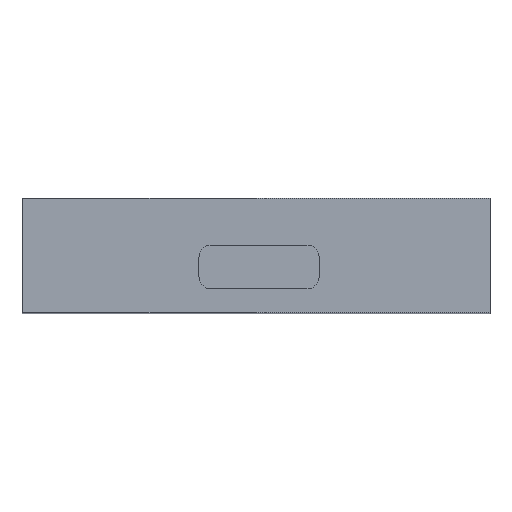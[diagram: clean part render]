
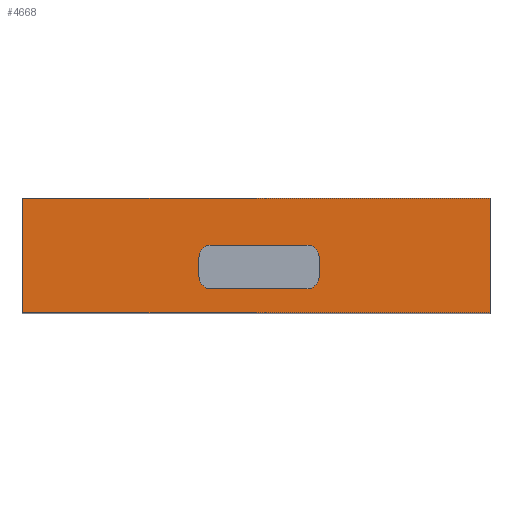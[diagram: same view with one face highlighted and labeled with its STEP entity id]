
A CAD part, top view. The second image highlights one B-rep face of the part: STEP entity #4668.
In plain terms, the highlighted planar face has unit normal (0, 0, 1).
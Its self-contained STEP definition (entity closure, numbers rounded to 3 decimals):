
#31=CIRCLE('',#4989,1.);
#32=CIRCLE('',#4990,1.);
#33=CIRCLE('',#4991,1.);
#34=CIRCLE('',#4992,1.);
#52=FACE_BOUND('',#408,.T.);
#90=FACE_OUTER_BOUND('',#407,.T.);
#407=EDGE_LOOP('',(#3320,#3321,#3322,#3323));
#408=EDGE_LOOP('',(#3324,#3325,#3326,#3327,#3328,#3329,#3330,#3331));
#676=LINE('',#6547,#1330);
#683=LINE('',#6560,#1337);
#777=LINE('',#6750,#1431);
#865=LINE('',#6926,#1519);
#883=LINE('',#6967,#1537);
#884=LINE('',#6971,#1538);
#885=LINE('',#6975,#1539);
#886=LINE('',#6979,#1540);
#1330=VECTOR('',#5268,10.);
#1337=VECTOR('',#5277,10.);
#1431=VECTOR('',#5433,10.);
#1519=VECTOR('',#5523,10.);
#1537=VECTOR('',#5553,10.);
#1538=VECTOR('',#5556,10.);
#1539=VECTOR('',#5559,10.);
#1540=VECTOR('',#5562,10.);
#1984=VERTEX_POINT('',#6544);
#1985=VERTEX_POINT('',#6546);
#1990=VERTEX_POINT('',#6558);
#2054=VERTEX_POINT('',#6747);
#2055=VERTEX_POINT('',#6749);
#2142=VERTEX_POINT('',#6925);
#2160=VERTEX_POINT('',#6968);
#2161=VERTEX_POINT('',#6970);
#2162=VERTEX_POINT('',#6972);
#2163=VERTEX_POINT('',#6974);
#2164=VERTEX_POINT('',#6976);
#2165=VERTEX_POINT('',#6978);
#2352=EDGE_CURVE('',#1984,#1985,#676,.T.);
#2359=EDGE_CURVE('',#1984,#1990,#683,.T.);
#2453=EDGE_CURVE('',#2055,#2054,#777,.T.);
#2541=EDGE_CURVE('',#1985,#2142,#865,.T.);
#2563=EDGE_CURVE('',#1990,#2142,#883,.T.);
#2564=EDGE_CURVE('',#2054,#2160,#31,.T.);
#2565=EDGE_CURVE('',#2160,#2161,#884,.T.);
#2566=EDGE_CURVE('',#2161,#2162,#32,.T.);
#2567=EDGE_CURVE('',#2162,#2163,#885,.T.);
#2568=EDGE_CURVE('',#2163,#2164,#33,.T.);
#2569=EDGE_CURVE('',#2164,#2165,#886,.T.);
#2570=EDGE_CURVE('',#2165,#2055,#34,.T.);
#3320=ORIENTED_EDGE('',*,*,#2541,.F.);
#3321=ORIENTED_EDGE('',*,*,#2352,.F.);
#3322=ORIENTED_EDGE('',*,*,#2359,.T.);
#3323=ORIENTED_EDGE('',*,*,#2563,.T.);
#3324=ORIENTED_EDGE('',*,*,#2453,.T.);
#3325=ORIENTED_EDGE('',*,*,#2564,.T.);
#3326=ORIENTED_EDGE('',*,*,#2565,.T.);
#3327=ORIENTED_EDGE('',*,*,#2566,.T.);
#3328=ORIENTED_EDGE('',*,*,#2567,.T.);
#3329=ORIENTED_EDGE('',*,*,#2568,.T.);
#3330=ORIENTED_EDGE('',*,*,#2569,.T.);
#3331=ORIENTED_EDGE('',*,*,#2570,.T.);
#4372=PLANE('',#4988);
#4668=ADVANCED_FACE('',(#90,#52),#4372,.T.);
#4988=AXIS2_PLACEMENT_3D('',#6966,#5551,#5552);
#4989=AXIS2_PLACEMENT_3D('',#6969,#5554,#5555);
#4990=AXIS2_PLACEMENT_3D('',#6973,#5557,#5558);
#4991=AXIS2_PLACEMENT_3D('',#6977,#5560,#5561);
#4992=AXIS2_PLACEMENT_3D('',#6980,#5563,#5564);
#5268=DIRECTION('',(0.,1.,0.));
#5277=DIRECTION('',(1.,0.,0.));
#5433=DIRECTION('',(-1.,0.,0.));
#5523=DIRECTION('',(1.,0.,0.));
#5551=DIRECTION('center_axis',(0.,0.,1.));
#5552=DIRECTION('ref_axis',(0.,-1.,0.));
#5553=DIRECTION('',(0.,1.,0.));
#5554=DIRECTION('center_axis',(0.,0.,-1.));
#5555=DIRECTION('ref_axis',(-1.,0.,0.));
#5556=DIRECTION('',(0.,1.,0.));
#5557=DIRECTION('center_axis',(0.,0.,-1.));
#5558=DIRECTION('ref_axis',(0.,1.,0.));
#5559=DIRECTION('',(1.,0.,0.));
#5560=DIRECTION('center_axis',(0.,0.,-1.));
#5561=DIRECTION('ref_axis',(1.,0.,0.));
#5562=DIRECTION('',(0.,-1.,0.));
#5563=DIRECTION('center_axis',(0.,0.,-1.));
#5564=DIRECTION('ref_axis',(0.,-1.,0.));
#6544=CARTESIAN_POINT('',(-19.333,-2.,23.81));
#6546=CARTESIAN_POINT('',(-19.333,7.5,23.81));
#6547=CARTESIAN_POINT('',(-19.333,-2.,23.81));
#6558=CARTESIAN_POINT('',(19.333,-2.,23.81));
#6560=CARTESIAN_POINT('',(-19.333,-2.,23.81));
#6747=CARTESIAN_POINT('',(-3.714,0.,23.81));
#6749=CARTESIAN_POINT('',(4.214,0.,23.81));
#6750=CARTESIAN_POINT('',(2.107,0.,23.81));
#6925=CARTESIAN_POINT('',(19.333,7.5,23.81));
#6926=CARTESIAN_POINT('',(-15.74,7.5,23.81));
#6966=CARTESIAN_POINT('Origin',(0.,2.748,23.81));
#6967=CARTESIAN_POINT('',(19.333,-2.,23.81));
#6968=CARTESIAN_POINT('',(-4.714,1.,23.81));
#6969=CARTESIAN_POINT('Origin',(-3.714,1.,23.81));
#6970=CARTESIAN_POINT('',(-4.714,2.608,23.81));
#6971=CARTESIAN_POINT('',(-4.714,1.874,23.81));
#6972=CARTESIAN_POINT('',(-3.714,3.608,23.81));
#6973=CARTESIAN_POINT('Origin',(-3.714,2.608,23.81));
#6974=CARTESIAN_POINT('',(4.214,3.608,23.81));
#6975=CARTESIAN_POINT('',(-1.857,3.608,23.81));
#6976=CARTESIAN_POINT('',(5.214,2.608,23.81));
#6977=CARTESIAN_POINT('Origin',(4.214,2.608,23.81));
#6978=CARTESIAN_POINT('',(5.214,1.,23.81));
#6979=CARTESIAN_POINT('',(5.214,2.678,23.81));
#6980=CARTESIAN_POINT('Origin',(4.214,1.,23.81));
